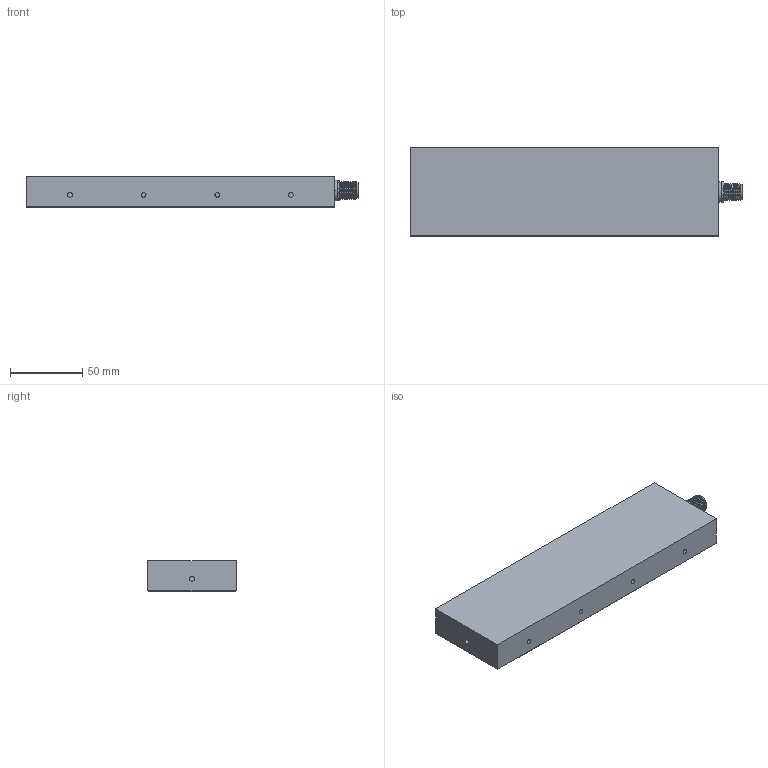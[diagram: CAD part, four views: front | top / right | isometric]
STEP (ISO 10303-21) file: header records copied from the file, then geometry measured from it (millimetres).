
FILE_DESCRIPTION (( 'STEP AP214' ), '1' );
FILE_NAME ('CSBACKII-xxxx-xxx_CLIENT2005.STEP', '2022-04-01T09:18:43', ( '' ), ( '' ), 'SwSTEP 2.0', 'SolidWorks 2020', '' );
FILE_SCHEMA (( 'AUTOMOTIVE_DESIGN' ));
Length unit declared in the file: millimetre
Products named in the file (1): CSBACKII-xxxx-xxx_CLIENT2005
Bounding box: 230 x 61 x 21.06 mm (x, y, z)
Volume: 275822.2 mm3; surface area: 39412.3 mm2
Topology: 1 solids, 2 shells, 322 faces, 807 edges, 530 vertices
Faces by surface type: plane 170, bspline 83, cylinder 61, torus 8
Entity records: 15154 total; most frequent: CARTESIAN_POINT 7989, ORIENTED_EDGE 1614, DIRECTION 1203, EDGE_CURVE 807, VERTEX_POINT 530, LINE 475, VECTOR 475, AXIS2_PLACEMENT_3D 364
